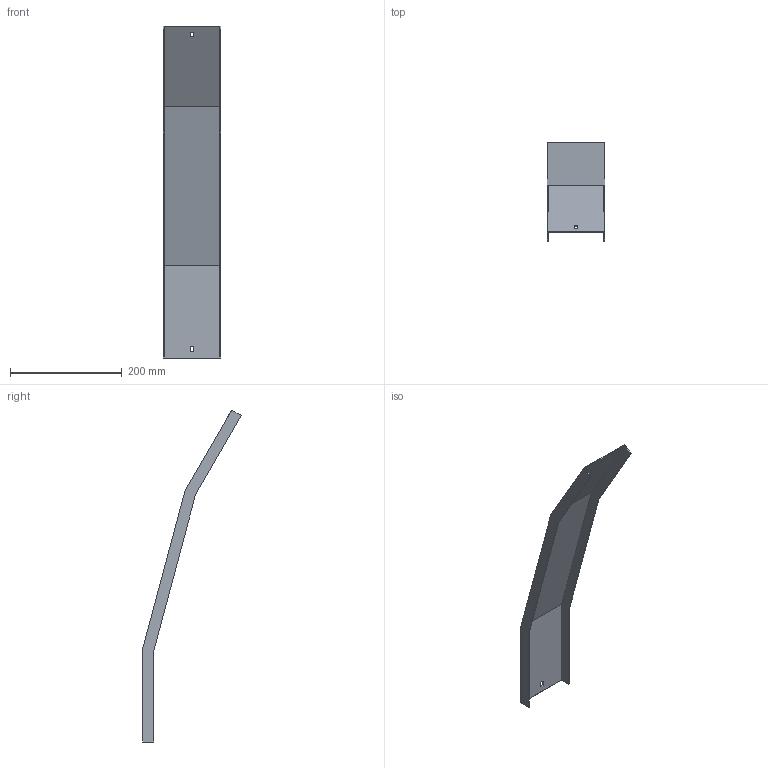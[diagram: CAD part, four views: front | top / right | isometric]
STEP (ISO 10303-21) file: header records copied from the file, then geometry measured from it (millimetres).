
FILE_DESCRIPTION (( 'STEP AP214' ), '1' );
FILE_NAME ('35N5J100.step', '2025-02-21T10:29:30', ( '' ), ( '' ), 'SwSTEP 2.0', 'SolidWorks 2023', '' );
FILE_SCHEMA (( 'AUTOMOTIVE_DESIGN' ));
Length unit declared in the file: millimetre
Products named in the file (1): 35N5J100
Bounding box: 103 x 176.54 x 594.21 mm (x, y, z)
Volume: 131021.1 mm3; surface area: 177056.9 mm2
Topology: 1 solids, 1 shells, 26 faces, 72 edges, 48 vertices
Faces by surface type: plane 26
Entity records: 847 total; most frequent: CARTESIAN_POINT 147, ORIENTED_EDGE 144, DIRECTION 126, VECTOR 72, EDGE_CURVE 72, LINE 72, VERTEX_POINT 48, EDGE_LOOP 30
